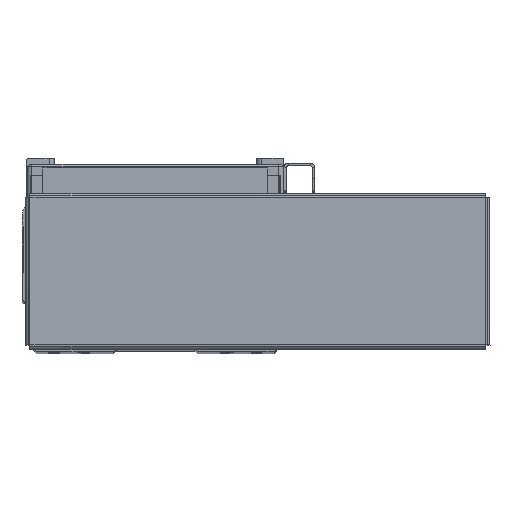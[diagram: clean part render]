
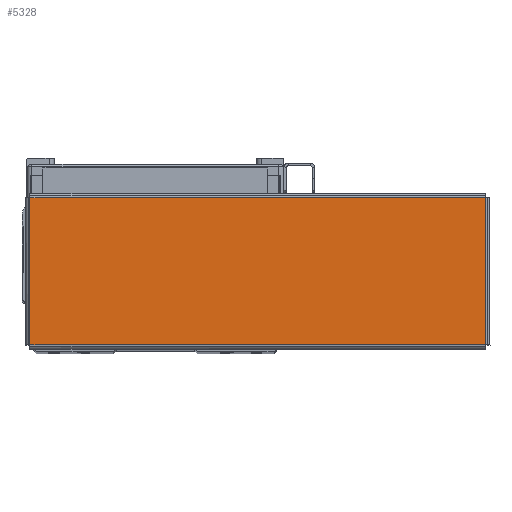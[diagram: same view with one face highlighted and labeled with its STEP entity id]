
A CAD part, top view. The second image highlights one B-rep face of the part: STEP entity #5328.
In plain terms, the highlighted planar face has unit normal (0, 0, 1) as drawn and (0, -1, 0) by its records, which use the part's own axes.
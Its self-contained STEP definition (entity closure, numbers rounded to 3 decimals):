
#1367 = VERTEX_POINT ( 'NONE', #7596 ) ;
#1419 = VERTEX_POINT ( 'NONE', #7653 ) ;
#1447 = VERTEX_POINT ( 'NONE', #7671 ) ;
#1487 = VERTEX_POINT ( 'NONE', #7709 ) ;
#5328 = ADVANCED_FACE ( 'NONE', ( #42558 ), #54414, .F. ) ;
#7596 = CARTESIAN_POINT ( 'NONE',  ( -92.263, -1., -29.763 ) ) ;
#7653 = CARTESIAN_POINT ( 'NONE',  ( -92.263, -1., 29.763 ) ) ;
#7671 = CARTESIAN_POINT ( 'NONE',  ( 92.263, -1., -29.763 ) ) ;
#7709 = CARTESIAN_POINT ( 'NONE',  ( 92.263, -1., 29.763 ) ) ;
#8924 = EDGE_CURVE ( 'NONE', #1487, #1419, #55603, .T. ) ;
#8930 = EDGE_CURVE ( 'NONE', #1447, #1487, #55815, .T. ) ;
#8946 = EDGE_CURVE ( 'NONE', #1419, #1367, #55747, .T. ) ;
#8953 = EDGE_CURVE ( 'NONE', #1367, #1447, #55741, .T. ) ;
#26009 = ORIENTED_EDGE ( 'NONE', *, *, #8924, .T. ) ;
#26031 = ORIENTED_EDGE ( 'NONE', *, *, #8930, .T. ) ;
#26067 = ORIENTED_EDGE ( 'NONE', *, *, #8953, .T. ) ;
#26105 = ORIENTED_EDGE ( 'NONE', *, *, #8946, .T. ) ;
#40162 = AXIS2_PLACEMENT_3D ( 'NONE', #54366, #54401, #54386 ) ;
#42558 = FACE_OUTER_BOUND ( 'NONE', #49378, .T. ) ;
#49378 = EDGE_LOOP ( 'NONE', ( #26067, #26031, #26009, #26105 ) ) ;
#54366 = CARTESIAN_POINT ( 'NONE',  ( 0., -1., 0. ) ) ;
#54386 = DIRECTION ( 'NONE',  ( 0., 0., 1. ) ) ;
#54401 = DIRECTION ( 'NONE',  ( 0., 1., 0. ) ) ;
#54414 = PLANE ( 'NONE',  #40162 ) ;
#55058 = DIRECTION ( 'NONE',  ( 0., 0., 1. ) ) ;
#55066 = DIRECTION ( 'NONE',  ( -1., 0., 0. ) ) ;
#55069 = CARTESIAN_POINT ( 'NONE',  ( 92.293, -1., 29.763 ) ) ;
#55080 = CARTESIAN_POINT ( 'NONE',  ( 92.263, -1., -29.793 ) ) ;
#55105 = CARTESIAN_POINT ( 'NONE',  ( -92.263, -1., 29.793 ) ) ;
#55145 = CARTESIAN_POINT ( 'NONE',  ( -92.293, -1., -29.763 ) ) ;
#55149 = DIRECTION ( 'NONE',  ( 1., 0., 0. ) ) ;
#55164 = DIRECTION ( 'NONE',  ( 0., 0., -1. ) ) ;
#55603 = LINE ( 'NONE', #55069, #55731 ) ;
#55731 = VECTOR ( 'NONE', #55066, 1000. ) ;
#55733 = VECTOR ( 'NONE', #55164, 1000. ) ;
#55741 = LINE ( 'NONE', #55145, #55759 ) ;
#55747 = LINE ( 'NONE', #55105, #55733 ) ;
#55757 = VECTOR ( 'NONE', #55058, 1000. ) ;
#55759 = VECTOR ( 'NONE', #55149, 1000. ) ;
#55815 = LINE ( 'NONE', #55080, #55757 ) ;
